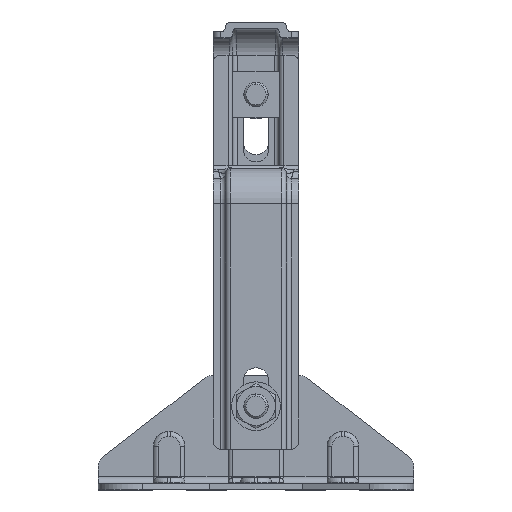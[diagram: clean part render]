
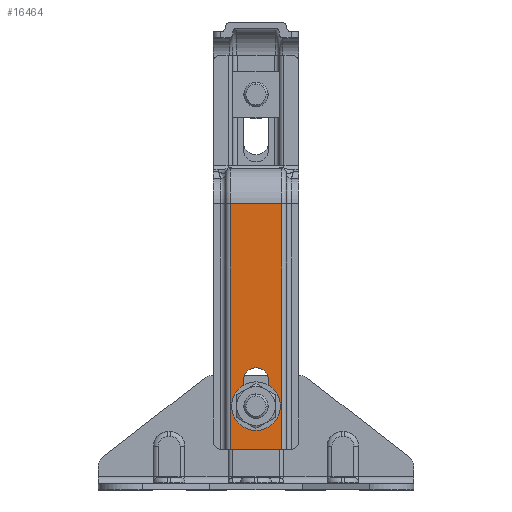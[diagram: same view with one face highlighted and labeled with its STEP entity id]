
A CAD part, top view. The second image highlights one B-rep face of the part: STEP entity #16464.
In plain terms, the highlighted planar face has unit normal (0, 0, 1) as drawn and (1, 0, 0) by its records, which use the part's own axes.
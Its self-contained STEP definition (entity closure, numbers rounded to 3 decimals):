
#88 = CARTESIAN_POINT ( 'NONE',  ( 132., 144.75, 5.25 ) ) ;
#89 = CARTESIAN_POINT ( 'NONE',  ( 132., 134.25, -5.25 ) ) ;
#96 = CARTESIAN_POINT ( 'NONE',  ( 132., 144.75, -5.25 ) ) ;
#116 = CARTESIAN_POINT ( 'NONE',  ( 132., 134.25, 5.25 ) ) ;
#117 = CARTESIAN_POINT ( 'NONE',  ( 132., 162.5, 10.5 ) ) ;
#118 = CARTESIAN_POINT ( 'NONE',  ( 132., 162.5, -10.5 ) ) ;
#119 = CARTESIAN_POINT ( 'NONE',  ( 132., 61.5, 10.5 ) ) ;
#120 = CARTESIAN_POINT ( 'NONE',  ( 132., 61.5, -10.5 ) ) ;
#649 = VERTEX_POINT ( 'NONE', #88 ) ;
#650 = VERTEX_POINT ( 'NONE', #89 ) ;
#657 = VERTEX_POINT ( 'NONE', #96 ) ;
#677 = VERTEX_POINT ( 'NONE', #116 ) ;
#678 = VERTEX_POINT ( 'NONE', #117 ) ;
#679 = VERTEX_POINT ( 'NONE', #118 ) ;
#680 = VERTEX_POINT ( 'NONE', #119 ) ;
#681 = VERTEX_POINT ( 'NONE', #120 ) ;
#2052 = EDGE_CURVE ( 'NONE', #657, #649, #8336, .T. ) ;
#2054 = EDGE_CURVE ( 'NONE', #677, #650, #8349, .T. ) ;
#2055 = EDGE_CURVE ( 'NONE', #681, #679, #6746, .T. ) ;
#2063 = EDGE_CURVE ( 'NONE', #678, #679, #6750, .T. ) ;
#2064 = EDGE_CURVE ( 'NONE', #649, #677, #6751, .T. ) ;
#2065 = EDGE_CURVE ( 'NONE', #678, #680, #6752, .T. ) ;
#2068 = EDGE_CURVE ( 'NONE', #650, #657, #6753, .T. ) ;
#2075 = EDGE_CURVE ( 'NONE', #680, #681, #6759, .T. ) ;
#2510 = ORIENTED_EDGE ( 'NONE', *, *, #2068, .F. ) ;
#2511 = ORIENTED_EDGE ( 'NONE', *, *, #2064, .F. ) ;
#2520 = ORIENTED_EDGE ( 'NONE', *, *, #2063, .F. ) ;
#2522 = ORIENTED_EDGE ( 'NONE', *, *, #2065, .T. ) ;
#2523 = ORIENTED_EDGE ( 'NONE', *, *, #2075, .T. ) ;
#2526 = ORIENTED_EDGE ( 'NONE', *, *, #2052, .F. ) ;
#2534 = ORIENTED_EDGE ( 'NONE', *, *, #2054, .F. ) ;
#2535 = ORIENTED_EDGE ( 'NONE', *, *, #2055, .T. ) ;
#6276 = EDGE_LOOP ( 'NONE', ( #2526, #2510, #2534, #2511 ) ) ;
#6277 = EDGE_LOOP ( 'NONE', ( #2520, #2522, #2523, #2535 ) ) ;
#6746 = LINE ( 'NONE', #8068, #8352 ) ;
#6750 = LINE ( 'NONE', #8108, #8360 ) ;
#6751 = LINE ( 'NONE', #8110, #8362 ) ;
#6752 = LINE ( 'NONE', #8112, #8363 ) ;
#6753 = LINE ( 'NONE', #8120, #8368 ) ;
#6759 = LINE ( 'NONE', #8135, #8375 ) ;
#8059 = CARTESIAN_POINT ( 'NONE',  ( 132., 144.75, 0. ) ) ;
#8060 = DIRECTION ( 'NONE',  ( 1., 0., 0. ) ) ;
#8061 = DIRECTION ( 'NONE',  ( 0., 0., -1. ) ) ;
#8065 = CARTESIAN_POINT ( 'NONE',  ( 132., 134.25, 0. ) ) ;
#8066 = DIRECTION ( 'NONE',  ( 1., 0., 0. ) ) ;
#8067 = DIRECTION ( 'NONE',  ( 0., 0., -1. ) ) ;
#8068 = CARTESIAN_POINT ( 'NONE',  ( 132., 162.5, -10.5 ) ) ;
#8069 = DIRECTION ( 'NONE',  ( 0., 1., 0. ) ) ;
#8108 = CARTESIAN_POINT ( 'NONE',  ( 132., 162.5, -17.5 ) ) ;
#8109 = DIRECTION ( 'NONE',  ( 0., 0., -1. ) ) ;
#8110 = CARTESIAN_POINT ( 'NONE',  ( 132., 144.75, 5.25 ) ) ;
#8111 = DIRECTION ( 'NONE',  ( 0., -1., 0. ) ) ;
#8112 = CARTESIAN_POINT ( 'NONE',  ( 132., 61.5, 10.5 ) ) ;
#8113 = DIRECTION ( 'NONE',  ( 0., -1., 0. ) ) ;
#8120 = CARTESIAN_POINT ( 'NONE',  ( 132., 144.75, -5.25 ) ) ;
#8121 = DIRECTION ( 'NONE',  ( 0., 1., 0. ) ) ;
#8135 = CARTESIAN_POINT ( 'NONE',  ( 132., 61.5, -17.5 ) ) ;
#8136 = DIRECTION ( 'NONE',  ( 0., 0., -1. ) ) ;
#8336 = CIRCLE ( 'NONE', #8346, 5.25 ) ;
#8346 = AXIS2_PLACEMENT_3D ( 'NONE', #8059, #8060, #8061 ) ;
#8349 = CIRCLE ( 'NONE', #8350, 5.25 ) ;
#8350 = AXIS2_PLACEMENT_3D ( 'NONE', #8065, #8066, #8067 ) ;
#8352 = VECTOR ( 'NONE', #8069, 1000. ) ;
#8360 = VECTOR ( 'NONE', #8109, 1000. ) ;
#8362 = VECTOR ( 'NONE', #8111, 1000. ) ;
#8363 = VECTOR ( 'NONE', #8113, 1000. ) ;
#8368 = VECTOR ( 'NONE', #8121, 1000. ) ;
#8375 = VECTOR ( 'NONE', #8136, 1000. ) ;
#12549 = FACE_BOUND ( 'NONE', #6276, .T. ) ;
#12550 = FACE_OUTER_BOUND ( 'NONE', #6277, .T. ) ;
#14398 = AXIS2_PLACEMENT_3D ( 'NONE', #16093, #16094, #16095 ) ;
#16092 = PLANE ( 'NONE',  #14398 ) ;
#16093 = CARTESIAN_POINT ( 'NONE',  ( 132., 61.5, -17.5 ) ) ;
#16094 = DIRECTION ( 'NONE',  ( 1., 0., 0. ) ) ;
#16095 = DIRECTION ( 'NONE',  ( 0., 0., -1. ) ) ;
#16464 = ADVANCED_FACE ( 'NONE', ( #12549, #12550 ), #16092, .T. ) ;
